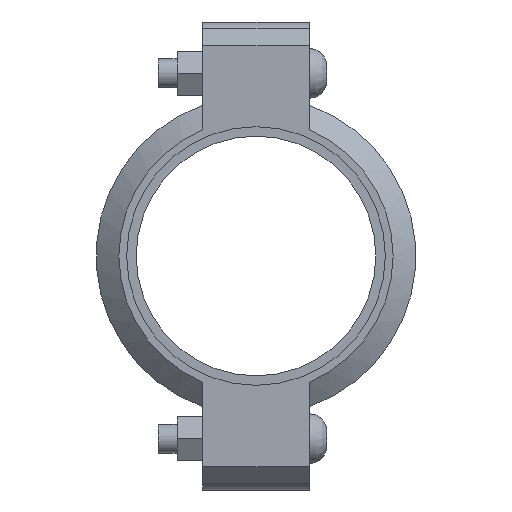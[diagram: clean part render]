
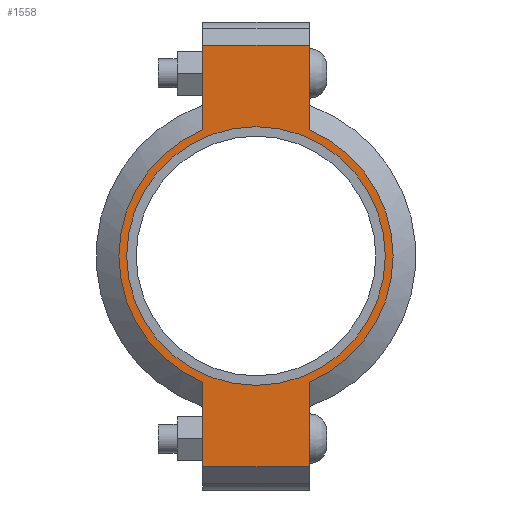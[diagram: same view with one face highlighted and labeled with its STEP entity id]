
A CAD part, left-side view. The second image highlights one B-rep face of the part: STEP entity #1558.
In plain terms, the highlighted planar face has unit normal (-1, 0, 0) as drawn and (0, 0, 1) by its records, which use the part's own axes.
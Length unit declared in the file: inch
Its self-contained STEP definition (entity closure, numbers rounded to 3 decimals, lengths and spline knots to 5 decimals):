
#182=LINE('',#2728,#275);
#190=LINE('',#2764,#283);
#197=LINE('',#2785,#290);
#206=LINE('',#2817,#299);
#207=LINE('',#2821,#300);
#208=LINE('',#2823,#301);
#275=VECTOR('',#2224,0.3937);
#283=VECTOR('',#2240,0.3937);
#290=VECTOR('',#2259,0.3937);
#299=VECTOR('',#2284,0.3937);
#300=VECTOR('',#2289,0.3937);
#301=VECTOR('',#2290,0.3937);
#357=FACE_BOUND('',#535,.T.);
#429=FACE_OUTER_BOUND('',#534,.T.);
#534=EDGE_LOOP('',(#1299,#1300,#1301,#1302,#1303,#1304,#1305,#1306));
#535=EDGE_LOOP('',(#1307));
#607=CIRCLE('',#1786,2.7815);
#633=CIRCLE('',#1845,2.95);
#634=CIRCLE('',#1846,2.95);
#699=VERTEX_POINT('',#2544);
#742=VERTEX_POINT('',#2725);
#743=VERTEX_POINT('',#2727);
#754=VERTEX_POINT('',#2759);
#755=VERTEX_POINT('',#2763);
#762=VERTEX_POINT('',#2782);
#763=VERTEX_POINT('',#2784);
#773=VERTEX_POINT('',#2820);
#774=VERTEX_POINT('',#2822);
#855=EDGE_CURVE('',#699,#699,#607,.T.);
#916=EDGE_CURVE('',#743,#742,#182,.T.);
#930=EDGE_CURVE('',#755,#754,#190,.T.);
#940=EDGE_CURVE('',#763,#762,#197,.T.);
#955=EDGE_CURVE('',#755,#742,#206,.T.);
#956=EDGE_CURVE('',#754,#763,#633,.T.);
#957=EDGE_CURVE('',#773,#762,#207,.T.);
#958=EDGE_CURVE('',#773,#774,#208,.T.);
#959=EDGE_CURVE('',#774,#743,#634,.T.);
#1299=ORIENTED_EDGE('',*,*,#955,.F.);
#1300=ORIENTED_EDGE('',*,*,#930,.T.);
#1301=ORIENTED_EDGE('',*,*,#956,.T.);
#1302=ORIENTED_EDGE('',*,*,#940,.T.);
#1303=ORIENTED_EDGE('',*,*,#957,.F.);
#1304=ORIENTED_EDGE('',*,*,#958,.T.);
#1305=ORIENTED_EDGE('',*,*,#959,.T.);
#1306=ORIENTED_EDGE('',*,*,#916,.T.);
#1307=ORIENTED_EDGE('',*,*,#855,.T.);
#1400=PLANE('',#1844);
#1558=ADVANCED_FACE('',(#429,#357),#1400,.T.);
#1786=AXIS2_PLACEMENT_3D('',#2546,#2100,#2101);
#1844=AXIS2_PLACEMENT_3D('',#2818,#2285,#2286);
#1845=AXIS2_PLACEMENT_3D('',#2819,#2287,#2288);
#1846=AXIS2_PLACEMENT_3D('',#2824,#2291,#2292);
#2100=DIRECTION('center_axis',(0.,0.,-1.));
#2101=DIRECTION('ref_axis',(1.,0.,0.));
#2224=DIRECTION('',(1.,0.,0.));
#2240=DIRECTION('',(-1.,0.,0.));
#2259=DIRECTION('',(-1.,0.,0.));
#2284=DIRECTION('',(0.,-1.,0.));
#2285=DIRECTION('center_axis',(0.,0.,1.));
#2286=DIRECTION('ref_axis',(-1.,0.,0.));
#2287=DIRECTION('center_axis',(0.,0.,1.));
#2288=DIRECTION('ref_axis',(1.,0.,0.));
#2289=DIRECTION('',(0.,1.,0.));
#2290=DIRECTION('',(1.,0.,0.));
#2291=DIRECTION('center_axis',(0.,0.,1.));
#2292=DIRECTION('ref_axis',(1.,0.,0.));
#2544=CARTESIAN_POINT('',(-2.7815,0.,1.065));
#2546=CARTESIAN_POINT('Origin',(0.,0.,1.065));
#2725=CARTESIAN_POINT('',(4.535,-1.15,1.065));
#2727=CARTESIAN_POINT('',(2.71662,-1.15,1.065));
#2728=CARTESIAN_POINT('',(5.035,-1.15,1.065));
#2759=CARTESIAN_POINT('',(2.71662,1.15,1.065));
#2763=CARTESIAN_POINT('',(4.535,1.15,1.065));
#2764=CARTESIAN_POINT('',(-5.035,1.15,1.065));
#2782=CARTESIAN_POINT('',(-4.535,1.15,1.065));
#2784=CARTESIAN_POINT('',(-2.71662,1.15,1.065));
#2785=CARTESIAN_POINT('',(-5.035,1.15,1.065));
#2817=CARTESIAN_POINT('',(4.535,-0.575,1.065));
#2818=CARTESIAN_POINT('Origin',(0.,0.,
1.065));
#2819=CARTESIAN_POINT('Origin',(0.,0.,1.065));
#2820=CARTESIAN_POINT('',(-4.535,-1.15,1.065));
#2821=CARTESIAN_POINT('',(-4.535,0.575,1.065));
#2822=CARTESIAN_POINT('',(-2.71662,-1.15,1.065));
#2823=CARTESIAN_POINT('',(5.035,-1.15,1.065));
#2824=CARTESIAN_POINT('Origin',(0.,0.,1.065));
